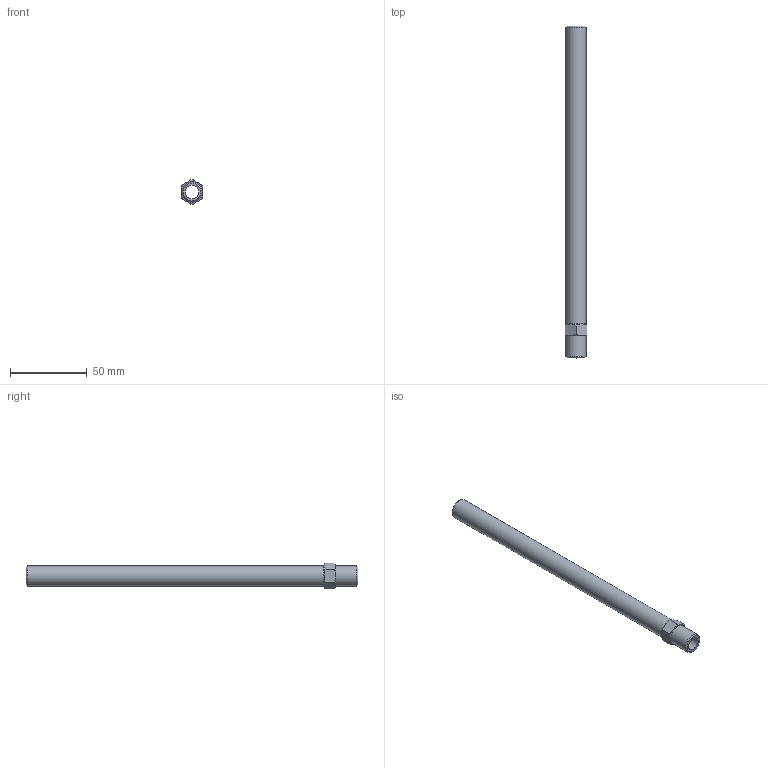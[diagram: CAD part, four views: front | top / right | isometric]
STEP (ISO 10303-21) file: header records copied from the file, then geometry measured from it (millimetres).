
FILE_DESCRIPTION(/* description */ (''),/* implementation_level */ '2;1');
FILE_NAME(/* name */ 'C:/Users/drich/Desktop/APN14-8-1_2 v1.step',/* time_stamp */ '2019-12-27T17:45:18-06:00',/* author */ (''),/* organization */ (''),/* preprocessor_version */ 'ST-DEVELOPER v18',/* originating_system */ 'Autodesk Translation Framework v8.12.0.6',/* authorisation */ '');
FILE_SCHEMA (('AUTOMOTIVE_DESIGN { 1 0 10303 214 3 1 1 }'));
Length unit declared in the file: inch
Products named in the file (1): APN14-8-1_2
Bounding box: 14.27 x 215.9 x 16.48 mm (x, y, z)
Volume: 16224.7 mm3; surface area: 14988 mm2
Topology: 1 solids, 1 shells, 17 faces, 39 edges, 26 vertices
Faces by surface type: plane 10, cone 4, cylinder 3
Full cylindrical faces by diameter (mm): 8.712 x1, 13.032 x2
Entity records: 521 total; most frequent: CARTESIAN_POINT 107, ORIENTED_EDGE 78, DIRECTION 77, EDGE_CURVE 39, AXIS2_PLACEMENT_3D 32, VERTEX_POINT 26, EDGE_LOOP 21, FACE_OUTER_BOUND 17
